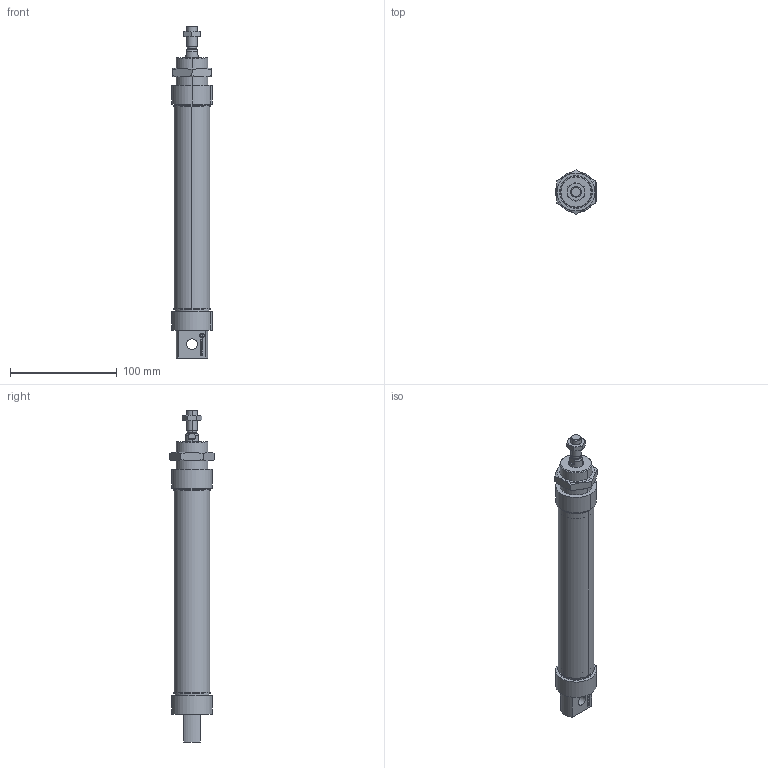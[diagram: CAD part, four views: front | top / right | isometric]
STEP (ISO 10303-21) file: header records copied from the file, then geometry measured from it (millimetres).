
FILE_DESCRIPTION (( 'STEP AP214' ), '1' );
FILE_NAME ('WSSC-032-0160.STEP', '2025-12-29T07:42:22', ( '' ), ( '' ), 'SwSTEP 2.0', 'SolidWorks 2023', '' );
FILE_SCHEMA (( 'AUTOMOTIVE_DESIGN' ));
Length unit declared in the file: millimetre
Products named in the file (1): WSSC-032-0160
Bounding box: 38 x 41.57 x 310.6 mm (x, y, z)
Volume: 124930.2 mm3; surface area: 74223.1 mm2
Topology: 7 solids, 7 shells, 240 faces, 576 edges, 370 vertices
Faces by surface type: plane 133, cylinder 55, cone 38, bspline 12, torus 2
Entity records: 10290 total; most frequent: CARTESIAN_POINT 2016, ORIENTED_EDGE 1152, DIRECTION 1102, EDGE_CURVE 576, AXIS2_PLACEMENT_3D 373, VERTEX_POINT 370, VECTOR 356, LINE 356
